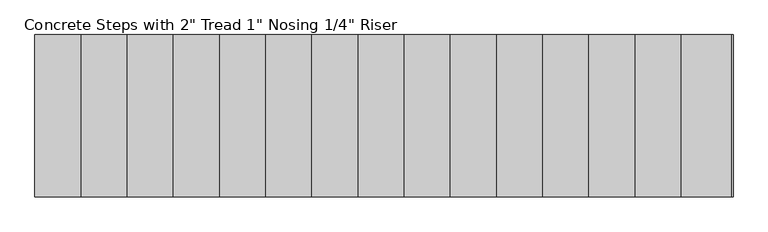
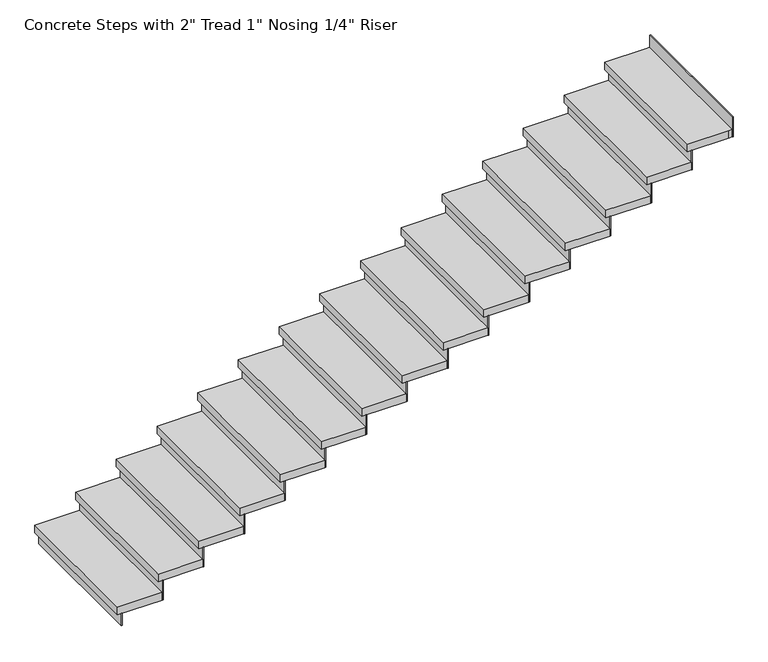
"""IFC4 building model written with IfcOpenShell, lengths in millimetres: stair flight geometry."""

from ifc_helpers import new_model, si_unit, frame, origin, origin_with_axes, place, context, project, spatial, polyline, outline, extrude, source, transform, mapped, element, save


def stair_flight_4296fd41(model_context):
    return source(origin(), model_context, "Body", "SweptSolid", [
        extrude(outline(polyline([(2053.4873344, -5698.5653686), (2047.1373344, -5698.5653686), (2047.1373344, -4784.1653686), (2053.4873344, -4784.1653686), (2053.4873344, -5698.5653686)])), origin_with_axes(), (0.0, 0.0, 1.0), 81.7217391),
        extrude(outline(polyline([(2307.4873344, -4784.1653686), (2307.4873344, -5698.5653686), (2021.7373344, -5698.5653686), (2021.7373344, -4784.1653686), (2307.4873344, -4784.1653686)])), frame((0.0, 0.0, 81.7217391), z_axis=(0.0, 0.0, 1.0), x_axis=(1.0, 0.0, 0.0)), (0.0, 0.0, 1.0), 50.8),
        extrude(outline(polyline([(2313.8373344, -5698.5653686), (2307.4873344, -5698.5653686), (2307.4873344, -4784.1653686), (2313.8373344, -4784.1653686), (2313.8373344, -5698.5653686)])), frame((0.0, 0.0, 81.7217391), z_axis=(0.0, 0.0, 1.0), x_axis=(1.0, 0.0, 0.0)), (0.0, 0.0, 1.0), 132.5217391),
        extrude(outline(polyline([(2567.8373344, -4784.1653686), (2567.8373344, -5698.5653686), (2282.0873344, -5698.5653686), (2282.0873344, -4784.1653686), (2567.8373344, -4784.1653686)])), frame((0.0, 0.0, 214.2434783), z_axis=(0.0, 0.0, 1.0), x_axis=(1.0, 0.0, 0.0)), (0.0, 0.0, 1.0), 50.8),
        extrude(outline(polyline([(2574.1873344, -5698.5653686), (2567.8373344, -5698.5653686), (2567.8373344, -4784.1653686), (2574.1873344, -4784.1653686), (2574.1873344, -5698.5653686)])), frame((0.0, 0.0, 214.2434783), z_axis=(0.0, 0.0, 1.0), x_axis=(1.0, 0.0, 0.0)), (0.0, 0.0, 1.0), 132.5217391),
        extrude(outline(polyline([(2828.1873344, -4784.1653686), (2828.1873344, -5698.5653686), (2542.4373344, -5698.5653686), (2542.4373344, -4784.1653686), (2828.1873344, -4784.1653686)])), frame((0.0, 0.0, 346.7652174), z_axis=(0.0, 0.0, 1.0), x_axis=(1.0, 0.0, 0.0)), (0.0, 0.0, 1.0), 50.8),
        extrude(outline(polyline([(2834.5373344, -5698.5653686), (2828.1873344, -5698.5653686), (2828.1873344, -4784.1653686), (2834.5373344, -4784.1653686), (2834.5373344, -5698.5653686)])), frame((0.0, 0.0, 346.7652174), z_axis=(0.0, 0.0, 1.0), x_axis=(1.0, 0.0, 0.0)), (0.0, 0.0, 1.0), 132.5217391),
        extrude(outline(polyline([(3088.5373344, -4784.1653686), (3088.5373344, -5698.5653686), (2802.7873344, -5698.5653686), (2802.7873344, -4784.1653686), (3088.5373344, -4784.1653686)])), frame((0.0, 0.0, 479.2869565), z_axis=(0.0, 0.0, 1.0), x_axis=(1.0, 0.0, 0.0)), (0.0, 0.0, 1.0), 50.8),
        extrude(outline(polyline([(3094.8873344, -5698.5653686), (3088.5373344, -5698.5653686), (3088.5373344, -4784.1653686), (3094.8873344, -4784.1653686), (3094.8873344, -5698.5653686)])), frame((0.0, 0.0, 479.2869565), z_axis=(0.0, 0.0, 1.0), x_axis=(1.0, 0.0, 0.0)), (0.0, 0.0, 1.0), 132.5217391),
        extrude(outline(polyline([(3348.8873344, -4784.1653686), (3348.8873344, -5698.5653686), (3063.1373344, -5698.5653686), (3063.1373344, -4784.1653686), (3348.8873344, -4784.1653686)])), frame((0.0, 0.0, 611.8086957), z_axis=(0.0, 0.0, 1.0), x_axis=(1.0, 0.0, 0.0)), (0.0, 0.0, 1.0), 50.8),
        extrude(outline(polyline([(3355.2373344, -5698.5653686), (3348.8873344, -5698.5653686), (3348.8873344, -4784.1653686), (3355.2373344, -4784.1653686), (3355.2373344, -5698.5653686)])), frame((0.0, 0.0, 611.8086957), z_axis=(0.0, 0.0, 1.0), x_axis=(1.0, 0.0, 0.0)), (0.0, 0.0, 1.0), 132.5217391),
        extrude(outline(polyline([(3609.2373344, -4784.1653686), (3609.2373344, -5698.5653686), (3323.4873344, -5698.5653686), (3323.4873344, -4784.1653686), (3609.2373344, -4784.1653686)])), frame((0.0, 0.0, 744.3304348), z_axis=(0.0, 0.0, 1.0), x_axis=(1.0, 0.0, 0.0)), (0.0, 0.0, 1.0), 50.8),
        extrude(outline(polyline([(3615.5873344, -5698.5653686), (3609.2373344, -5698.5653686), (3609.2373344, -4784.1653686), (3615.5873344, -4784.1653686), (3615.5873344, -5698.5653686)])), frame((0.0, 0.0, 744.3304348), z_axis=(0.0, 0.0, 1.0), x_axis=(1.0, 0.0, 0.0)), (0.0, 0.0, 1.0), 132.5217391),
        extrude(outline(polyline([(3869.5873344, -4784.1653686), (3869.5873344, -5698.5653686), (3583.8373344, -5698.5653686), (3583.8373344, -4784.1653686), (3869.5873344, -4784.1653686)])), frame((0.0, 0.0, 876.8521739), z_axis=(0.0, 0.0, 1.0), x_axis=(1.0, 0.0, 0.0)), (0.0, 0.0, 1.0), 50.8),
        extrude(outline(polyline([(3875.9373344, -5698.5653686), (3869.5873344, -5698.5653686), (3869.5873344, -4784.1653686), (3875.9373344, -4784.1653686), (3875.9373344, -5698.5653686)])), frame((0.0, 0.0, 876.8521739), z_axis=(0.0, 0.0, 1.0), x_axis=(1.0, 0.0, 0.0)), (0.0, 0.0, 1.0), 132.5217391),
        extrude(outline(polyline([(4129.9373344, -4784.1653686), (4129.9373344, -5698.5653686), (3844.1873344, -5698.5653686), (3844.1873344, -4784.1653686), (4129.9373344, -4784.1653686)])), frame((0.0, 0.0, 1009.373913), z_axis=(0.0, 0.0, 1.0), x_axis=(1.0, 0.0, 0.0)), (0.0, 0.0, 1.0), 50.8),
        extrude(outline(polyline([(4136.2873344, -5698.5653686), (4129.9373344, -5698.5653686), (4129.9373344, -4784.1653686), (4136.2873344, -4784.1653686), (4136.2873344, -5698.5653686)])), frame((0.0, 0.0, 1009.373913), z_axis=(0.0, 0.0, 1.0), x_axis=(1.0, 0.0, 0.0)), (0.0, 0.0, 1.0), 132.5217391),
        extrude(outline(polyline([(4390.2873344, -4784.1653686), (4390.2873344, -5698.5653686), (4104.5373344, -5698.5653686), (4104.5373344, -4784.1653686), (4390.2873344, -4784.1653686)])), frame((0.0, 0.0, 1141.8956522), z_axis=(0.0, 0.0, 1.0), x_axis=(1.0, 0.0, 0.0)), (0.0, 0.0, 1.0), 50.8),
        extrude(outline(polyline([(4396.6373344, -5698.5653686), (4390.2873344, -5698.5653686), (4390.2873344, -4784.1653686), (4396.6373344, -4784.1653686), (4396.6373344, -5698.5653686)])), frame((0.0, 0.0, 1141.8956522), z_axis=(0.0, 0.0, 1.0), x_axis=(1.0, 0.0, 0.0)), (0.0, 0.0, 1.0), 132.5217391),
        extrude(outline(polyline([(4650.6373344, -4784.1653686), (4650.6373344, -5698.5653686), (4364.8873344, -5698.5653686), (4364.8873344, -4784.1653686), (4650.6373344, -4784.1653686)])), frame((0.0, 0.0, 1274.4173913), z_axis=(0.0, 0.0, 1.0), x_axis=(1.0, 0.0, 0.0)), (0.0, 0.0, 1.0), 50.8),
        extrude(outline(polyline([(4656.9873344, -5698.5653686), (4650.6373344, -5698.5653686), (4650.6373344, -4784.1653686), (4656.9873344, -4784.1653686), (4656.9873344, -5698.5653686)])), frame((0.0, 0.0, 1274.4173913), z_axis=(0.0, 0.0, 1.0), x_axis=(1.0, 0.0, 0.0)), (0.0, 0.0, 1.0), 132.5217391),
        extrude(outline(polyline([(4910.9873344, -4784.1653686), (4910.9873344, -5698.5653686), (4625.2373344, -5698.5653686), (4625.2373344, -4784.1653686), (4910.9873344, -4784.1653686)])), frame((0.0, 0.0, 1406.9391304), z_axis=(0.0, 0.0, 1.0), x_axis=(1.0, 0.0, 0.0)), (0.0, 0.0, 1.0), 50.8),
        extrude(outline(polyline([(4917.3373344, -5698.5653686), (4910.9873344, -5698.5653686), (4910.9873344, -4784.1653686), (4917.3373344, -4784.1653686), (4917.3373344, -5698.5653686)])), frame((0.0, 0.0, 1406.9391304), z_axis=(0.0, 0.0, 1.0), x_axis=(1.0, 0.0, 0.0)), (0.0, 0.0, 1.0), 132.5217391),
        extrude(outline(polyline([(5171.3373344, -4784.1653686), (5171.3373344, -5698.5653686), (4885.5873344, -5698.5653686), (4885.5873344, -4784.1653686), (5171.3373344, -4784.1653686)])), frame((0.0, 0.0, 1539.4608696), z_axis=(0.0, 0.0, 1.0), x_axis=(1.0, 0.0, 0.0)), (0.0, 0.0, 1.0), 50.8),
        extrude(outline(polyline([(5177.6873344, -5698.5653686), (5171.3373344, -5698.5653686), (5171.3373344, -4784.1653686), (5177.6873344, -4784.1653686), (5177.6873344, -5698.5653686)])), frame((0.0, 0.0, 1539.4608696), z_axis=(0.0, 0.0, 1.0), x_axis=(1.0, 0.0, 0.0)), (0.0, 0.0, 1.0), 132.5217391),
        extrude(outline(polyline([(5431.6873344, -4784.1653686), (5431.6873344, -5698.5653686), (5145.9373344, -5698.5653686), (5145.9373344, -4784.1653686), (5431.6873344, -4784.1653686)])), frame((0.0, 0.0, 1671.9826087), z_axis=(0.0, 0.0, 1.0), x_axis=(1.0, 0.0, 0.0)), (0.0, 0.0, 1.0), 50.8),
        extrude(outline(polyline([(5438.0373344, -5698.5653686), (5431.6873344, -5698.5653686), (5431.6873344, -4784.1653686), (5438.0373344, -4784.1653686), (5438.0373344, -5698.5653686)])), frame((0.0, 0.0, 1671.9826087), z_axis=(0.0, 0.0, 1.0), x_axis=(1.0, 0.0, 0.0)), (0.0, 0.0, 1.0), 132.5217391),
        extrude(outline(polyline([(5692.0373344, -4784.1653686), (5692.0373344, -5698.5653686), (5406.2873344, -5698.5653686), (5406.2873344, -4784.1653686), (5692.0373344, -4784.1653686)])), frame((0.0, 0.0, 1804.5043478), z_axis=(0.0, 0.0, 1.0), x_axis=(1.0, 0.0, 0.0)), (0.0, 0.0, 1.0), 50.8),
        extrude(outline(polyline([(5958.7373344, -5698.5653686), (5952.3873344, -5698.5653686), (5952.3873344, -4784.1653686), (5958.7373344, -4784.1653686), (5958.7373344, -5698.5653686)])), frame((0.0, 0.0, 1937.026087), z_axis=(0.0, 0.0, 1.0), x_axis=(1.0, 0.0, 0.0)), (0.0, 0.0, 1.0), 132.5217391),
        extrude(outline(polyline([(5698.3873344, -5698.5653686), (5692.0373344, -5698.5653686), (5692.0373344, -4784.1653686), (5698.3873344, -4784.1653686), (5698.3873344, -5698.5653686)])), frame((0.0, 0.0, 1804.5043478), z_axis=(0.0, 0.0, 1.0), x_axis=(1.0, 0.0, 0.0)), (0.0, 0.0, 1.0), 132.5217391),
        extrude(outline(polyline([(5952.3873344, -4784.1653686), (5952.3873344, -5698.5653686), (5926.9873344, -5698.5653686), (5666.6373344, -5698.5653686), (5666.6373344, -4784.1653686), (5926.9873344, -4784.1653686), (5952.3873344, -4784.1653686)])), frame((0.0, 0.0, 1937.026087), z_axis=(0.0, 0.0, 1.0), x_axis=(1.0, 0.0, 0.0)), (0.0, 0.0, 1.0), 50.8),
    ])


if __name__ == "__main__":
    model = new_model("IFC4")
    model_context = context("Model", 3, world=origin())
    ifc_project = project(units=[si_unit("LENGTHUNIT", "METRE", prefix="MILLI")], contexts=[model_context])
    site = spatial("IfcSite", under=ifc_project)
    building = spatial("IfcBuilding", under=site)
    placement = place(None, origin())
    stair_flight_shape = stair_flight_4296fd41(model_context)
    element("IfcStairFlight", 1, ObjectType="Concrete Steps with 2\" Tread 1\" Nosing 1/4\" Riser", at=placement, inside=building, context=model_context, shape_type="MappedRepresentation", body=[
        mapped(stair_flight_shape, transform((0.0, 0.0, 0.0), x_axis=(1.0, 0.0, 0.0), y_axis=(0.0, 1.0, 0.0), z_axis=(0.0, 0.0, 1.0))),
    ])
    save(model, "model.ifc")
